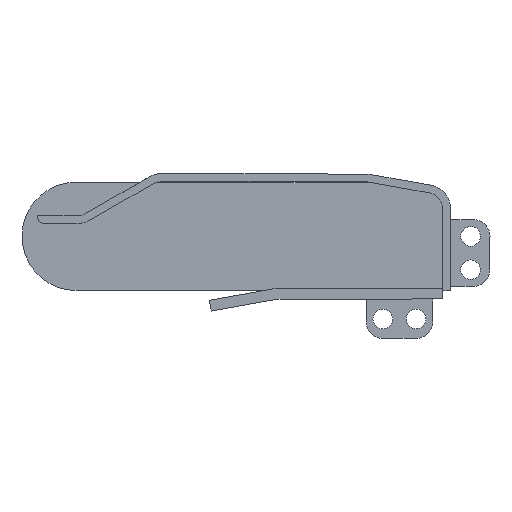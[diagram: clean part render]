
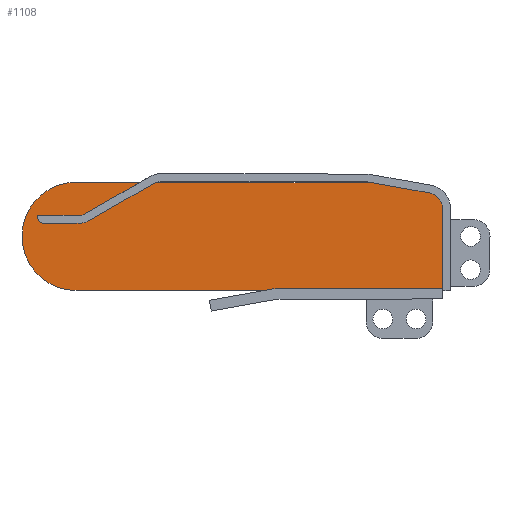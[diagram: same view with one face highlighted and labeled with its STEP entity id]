
A CAD part, front view. The second image highlights one B-rep face of the part: STEP entity #1108.
In plain terms, the highlighted planar face has unit normal (0, -1, 0).
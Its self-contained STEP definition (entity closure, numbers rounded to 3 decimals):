
#181 = AXIS2_PLACEMENT_3D ( 'NONE', #2370, #2327, #2340 ) ;
#196 = DIRECTION ( 'NONE',  ( 0.984, 0., -0.176 ) ) ;
#236 = EDGE_CURVE ( 'NONE', #871, #2807, #1766, .T. ) ;
#246 = CARTESIAN_POINT ( 'NONE',  ( -100.358, 33.02, 231.492 ) ) ;
#456 = ORIENTED_EDGE ( 'NONE', *, *, #1692, .F. ) ;
#501 = EDGE_LOOP ( 'NONE', ( #1493, #1451, #456, #687, #2287, #2167 ) ) ;
#590 = AXIS2_PLACEMENT_3D ( 'NONE', #1614, #947, #2095 ) ;
#614 = EDGE_CURVE ( 'NONE', #2313, #2357, #1606, .T. ) ;
#687 = ORIENTED_EDGE ( 'NONE', *, *, #614, .F. ) ;
#762 = CARTESIAN_POINT ( 'NONE',  ( 179.19, 33.02, 293.768 ) ) ;
#824 = DIRECTION ( 'NONE',  ( -1., 0., 0.002 ) ) ;
#843 = CARTESIAN_POINT ( 'NONE',  ( 128.436, 33.02, 313.502 ) ) ;
#871 = VERTEX_POINT ( 'NONE', #1364 ) ;
#921 = DIRECTION ( 'NONE',  ( -1., 0., 0.002 ) ) ;
#947 = DIRECTION ( 'NONE',  ( 0., 1., 0. ) ) ;
#1017 = PLANE ( 'NONE',  #2099 ) ;
#1042 = VECTOR ( 'NONE', #1089, 1000. ) ;
#1089 = DIRECTION ( 'NONE',  ( 1., 0., -0.002 ) ) ;
#1108 = ADVANCED_FACE ( 'NONE', ( #1970 ), #1017, .F. ) ;
#1256 = EDGE_CURVE ( 'NONE', #1569, #2313, #1326, .T. ) ;
#1326 = LINE ( 'NONE', #2978, #2333 ) ;
#1362 = CARTESIAN_POINT ( 'NONE',  ( 168.725, 33.02, 306.3 ) ) ;
#1364 = CARTESIAN_POINT ( 'NONE',  ( 128.436, 33.02, 313.502 ) ) ;
#1375 = LINE ( 'NONE', #2701, #1042 ) ;
#1451 = ORIENTED_EDGE ( 'NONE', *, *, #236, .F. ) ;
#1493 = ORIENTED_EDGE ( 'NONE', *, *, #2626, .F. ) ;
#1551 = DIRECTION ( 'NONE',  ( -0.002, 0., -1. ) ) ;
#1560 = EDGE_CURVE ( 'NONE', #1884, #1569, #2895, .T. ) ;
#1565 = CARTESIAN_POINT ( 'NONE',  ( 179.19, 33.02, 293.768 ) ) ;
#1569 = VERTEX_POINT ( 'NONE', #2217 ) ;
#1606 = CIRCLE ( 'NONE', #590, 41.275 ) ;
#1614 = CARTESIAN_POINT ( 'NONE',  ( -100.261, 33.02, 272.767 ) ) ;
#1692 = EDGE_CURVE ( 'NONE', #2357, #871, #1375, .T. ) ;
#1731 = CARTESIAN_POINT ( 'NONE',  ( 166.49, 33.02, 293.798 ) ) ;
#1766 = LINE ( 'NONE', #843, #2958 ) ;
#1874 = CARTESIAN_POINT ( 'NONE',  ( -100.163, 33.02, 314.042 ) ) ;
#1884 = VERTEX_POINT ( 'NONE', #762 ) ;
#1970 = FACE_OUTER_BOUND ( 'NONE', #501, .T. ) ;
#2023 = VECTOR ( 'NONE', #1551, 1000. ) ;
#2095 = DIRECTION ( 'NONE',  ( -1., 0., 0.002 ) ) ;
#2099 = AXIS2_PLACEMENT_3D ( 'NONE', #1731, #2674, #824 ) ;
#2167 = ORIENTED_EDGE ( 'NONE', *, *, #1560, .F. ) ;
#2217 = CARTESIAN_POINT ( 'NONE',  ( 179.041, 33.02, 230.832 ) ) ;
#2287 = ORIENTED_EDGE ( 'NONE', *, *, #1256, .F. ) ;
#2313 = VERTEX_POINT ( 'NONE', #246 ) ;
#2327 = DIRECTION ( 'NONE',  ( 0., 1., 0. ) ) ;
#2333 = VECTOR ( 'NONE', #921, 1000. ) ;
#2340 = DIRECTION ( 'NONE',  ( -1., 0., 0.002 ) ) ;
#2357 = VERTEX_POINT ( 'NONE', #1874 ) ;
#2370 = CARTESIAN_POINT ( 'NONE',  ( 166.49, 33.02, 293.798 ) ) ;
#2626 = EDGE_CURVE ( 'NONE', #2807, #1884, #2775, .T. ) ;
#2674 = DIRECTION ( 'NONE',  ( 0., 1., 0. ) ) ;
#2701 = CARTESIAN_POINT ( 'NONE',  ( -100.163, 33.02, 314.042 ) ) ;
#2775 = CIRCLE ( 'NONE', #181, 12.7 ) ;
#2807 = VERTEX_POINT ( 'NONE', #1362 ) ;
#2895 = LINE ( 'NONE', #1565, #2023 ) ;
#2958 = VECTOR ( 'NONE', #196, 1000. ) ;
#2978 = CARTESIAN_POINT ( 'NONE',  ( 179.041, 33.02, 230.832 ) ) ;
